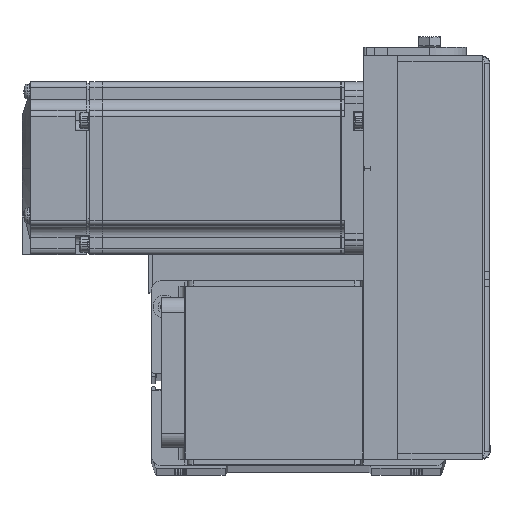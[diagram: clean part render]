
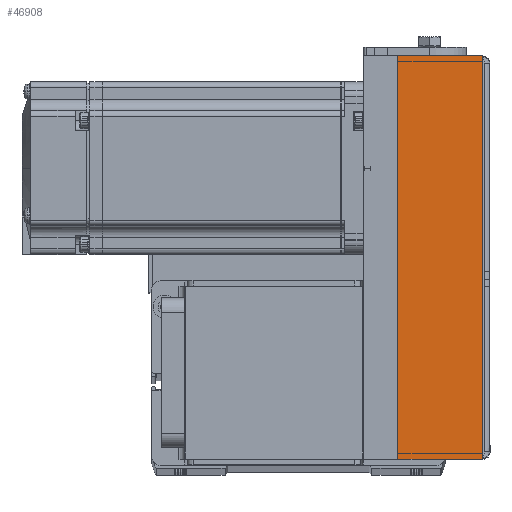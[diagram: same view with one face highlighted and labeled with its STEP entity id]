
A CAD part, top view. The second image highlights one B-rep face of the part: STEP entity #46908.
In plain terms, the highlighted planar face has unit normal (0, 0, 1) as drawn and (0, 0, -1) by its records, which use the part's own axes.
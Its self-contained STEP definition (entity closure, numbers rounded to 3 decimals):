
#163 = CARTESIAN_POINT ( 'NONE',  ( -70., -29.5, -31. ) ) ;
#1353 = DIRECTION ( 'NONE',  ( 0., 1., 0. ) ) ;
#2336 = ORIENTED_EDGE ( 'NONE', *, *, #31093, .F. ) ;
#4786 = CARTESIAN_POINT ( 'NONE',  ( 70., -29.5, -31. ) ) ;
#8503 = EDGE_CURVE ( 'NONE', #23364, #9805, #28681, .T. ) ;
#8936 = PLANE ( 'NONE',  #36091 ) ;
#9470 = VECTOR ( 'NONE', #19794, 1000. ) ;
#9805 = VERTEX_POINT ( 'NONE', #14456 ) ;
#12435 = LINE ( 'NONE', #28441, #9470 ) ;
#13909 = DIRECTION ( 'NONE',  ( 0., 0., 1. ) ) ;
#14456 = CARTESIAN_POINT ( 'NONE',  ( 70., -29.5, -31. ) ) ;
#14932 = EDGE_CURVE ( 'NONE', #23364, #51881, #48891, .T. ) ;
#16622 = CARTESIAN_POINT ( 'NONE',  ( -70., -29.5, -31. ) ) ;
#18676 = LINE ( 'NONE', #34717, #22250 ) ;
#19794 = DIRECTION ( 'NONE',  ( 0., 1., 0. ) ) ;
#19885 = ORIENTED_EDGE ( 'NONE', *, *, #8503, .F. ) ;
#22250 = VECTOR ( 'NONE', #30256, 1000. ) ;
#23364 = VERTEX_POINT ( 'NONE', #163 ) ;
#28441 = CARTESIAN_POINT ( 'NONE',  ( 70., -29.5, -31. ) ) ;
#28681 = LINE ( 'NONE', #4786, #34610 ) ;
#29942 = FACE_OUTER_BOUND ( 'NONE', #43479, .T. ) ;
#30256 = DIRECTION ( 'NONE',  ( 1., 0., 0. ) ) ;
#31093 = EDGE_CURVE ( 'NONE', #9805, #36432, #12435, .T. ) ;
#33997 = EDGE_CURVE ( 'NONE', #51881, #36432, #18676, .T. ) ;
#34610 = VECTOR ( 'NONE', #44682, 1000. ) ;
#34717 = CARTESIAN_POINT ( 'NONE',  ( 0., 0., -31. ) ) ;
#36091 = AXIS2_PLACEMENT_3D ( 'NONE', #40985, #13909, #49089 ) ;
#36432 = VERTEX_POINT ( 'NONE', #46462 ) ;
#38431 = CARTESIAN_POINT ( 'NONE',  ( -70., 0., -31. ) ) ;
#40985 = CARTESIAN_POINT ( 'NONE',  ( 0., -30., -31. ) ) ;
#43479 = EDGE_LOOP ( 'NONE', ( #19885, #49366, #48119, #2336 ) ) ;
#44682 = DIRECTION ( 'NONE',  ( 1., 0., 0. ) ) ;
#46462 = CARTESIAN_POINT ( 'NONE',  ( 70., 0., -31. ) ) ;
#46908 = ADVANCED_FACE ( 'NONE', ( #29942 ), #8936, .F. ) ;
#48119 = ORIENTED_EDGE ( 'NONE', *, *, #33997, .T. ) ;
#48557 = VECTOR ( 'NONE', #1353, 1000. ) ;
#48891 = LINE ( 'NONE', #16622, #48557 ) ;
#49089 = DIRECTION ( 'NONE',  ( 0., 1., 0. ) ) ;
#49366 = ORIENTED_EDGE ( 'NONE', *, *, #14932, .T. ) ;
#51881 = VERTEX_POINT ( 'NONE', #38431 ) ;
